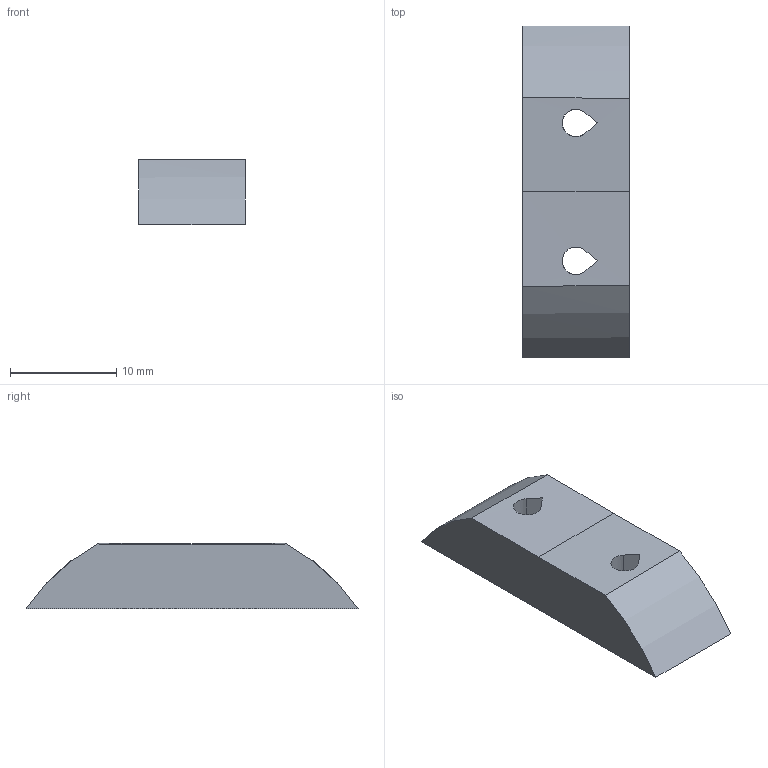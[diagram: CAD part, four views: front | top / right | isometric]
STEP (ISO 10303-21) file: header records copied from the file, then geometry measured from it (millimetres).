
FILE_DESCRIPTION(('SkyG Speed 90B - revision C6B-18 - 2026-10-15','NB2-wing-nut-bar-rear'),'2;1');
FILE_NAME('NB2-wing-nut-bar-rear_C6B-18','2026-10-15T11:37:25',('Author'),( 'Open CASCADE'),'Open CASCADE STEP processor 7.9','Open CASCADE 7.9' ,'Unknown');
FILE_SCHEMA(('AUTOMOTIVE_DESIGN { 1 0 10303 214 1 1 1 1 }'));
Length unit declared in the file: millimetre
Products named in the file (1): NB2-wing-nut-bar-rear C6B-18
Bounding box: 10 x 31.31 x 6.17 mm (x, y, z)
Volume: 1314 mm3; surface area: 1163.9 mm2
Topology: 1 solids, 1 shells, 27 faces, 69 edges, 46 vertices
Faces by surface type: plane 21, cylinder 4, bspline 2
Entity records: 3309 total; most frequent: CARTESIAN_POINT 2020, DIRECTION 191, ORIENTED_EDGE 138, PCURVE 138, DEFINITIONAL_REPRESENTATION 138, LINE 121, VECTOR 121, B_SPLINE_CURVE_WITH_KNOTS 74
